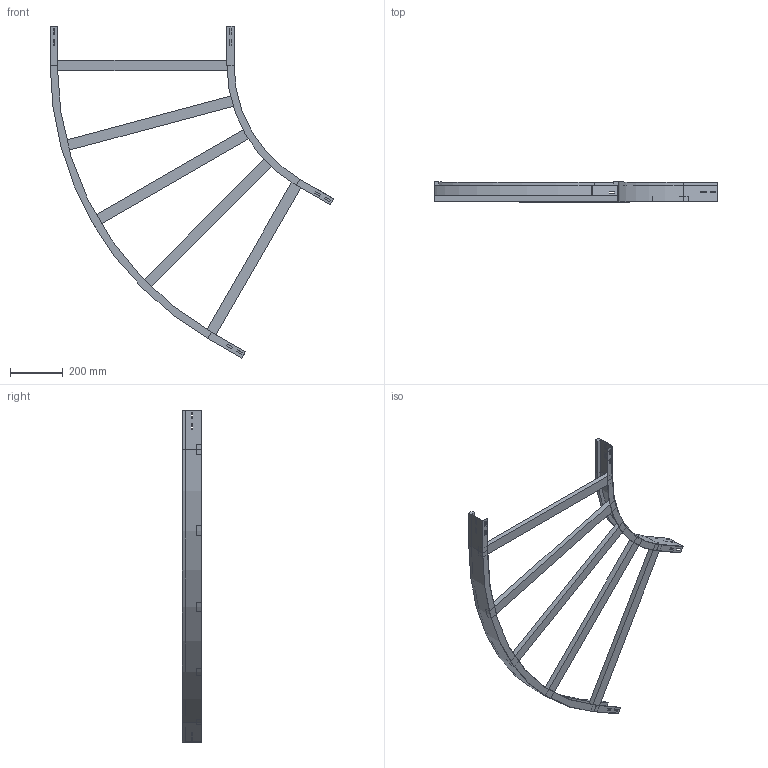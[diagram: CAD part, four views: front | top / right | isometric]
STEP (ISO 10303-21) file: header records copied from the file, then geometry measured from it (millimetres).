
FILE_DESCRIPTION (( 'STEP AP214' ), '1' );
FILE_NAME ('13B5C700.step', '2025-02-21T15:20:49', ( '' ), ( '' ), 'SwSTEP 2.0', 'SolidWorks 2023', '' );
FILE_SCHEMA (( 'AUTOMOTIVE_DESIGN' ));
Length unit declared in the file: millimetre
Products named in the file (4): 13B5C700; TRAVERSINO_700; A2_LONGH.ESTERNO 60°_H75_R500+700; A2_LONGH.INTERNO 60°_H75_R500
Assembly tree (7 placements, depth 2):
  13B5C700
    A2_LONGH.INTERNO 60°_H75_R500
    A2_LONGH.ESTERNO 60°_H75_R500+700
    TRAVERSINO_700  x5
Bounding box: 1079.9 x 75 x 1264.23 mm (x, y, z)
Volume: 3746924.4 mm3; surface area: 989411.7 mm2
Topology: 7 solids, 7 shells, 146 faces, 364 edges, 232 vertices
Faces by surface type: plane 138, cylinder 8
Entity records: 3837 total; most frequent: CARTESIAN_POINT 648, ORIENTED_EDGE 632, DIRECTION 596, EDGE_CURVE 316, VECTOR 300, LINE 300, VERTEX_POINT 200, EDGE_LOOP 154
